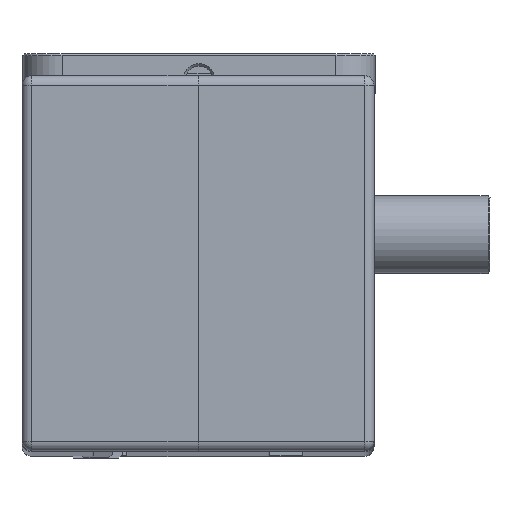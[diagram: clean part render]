
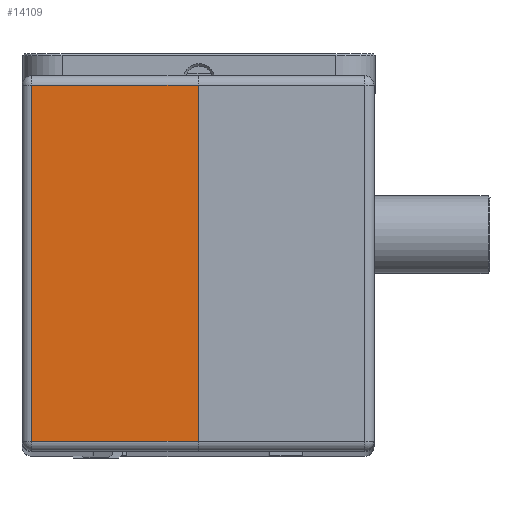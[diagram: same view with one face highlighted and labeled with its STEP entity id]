
A CAD part, top view. The second image highlights one B-rep face of the part: STEP entity #14109.
In plain terms, the highlighted planar face has unit normal (0, 0, 1) as drawn and (0, 1, 0) by its records, which use the part's own axes.
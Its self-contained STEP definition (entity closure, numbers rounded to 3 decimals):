
#1022 = EDGE_CURVE ( 'NONE', #2760, #4740, #15698, .T. ) ;
#2760 = VERTEX_POINT ( 'NONE', #64285 ) ;
#4693 = CARTESIAN_POINT ( 'NONE',  ( 65.17, 1228.8, 60.83 ) ) ;
#4740 = VERTEX_POINT ( 'NONE', #45859 ) ;
#5754 = CARTESIAN_POINT ( 'NONE',  ( 22.67, 1228.8, 154.33 ) ) ;
#6270 = CARTESIAN_POINT ( 'NONE',  ( 22.67, 1228.8, 154.33 ) ) ;
#6626 = VECTOR ( 'NONE', #44913, 1000. ) ;
#11185 = DIRECTION ( 'NONE',  ( 0., 1., 0. ) ) ;
#11317 = EDGE_LOOP ( 'NONE', ( #45422, #59219, #52828, #18469 ) ) ;
#12764 = LINE ( 'NONE', #61835, #6626 ) ;
#13326 = CARTESIAN_POINT ( 'NONE',  ( 22.67, 1228.8, 60.83 ) ) ;
#13959 = EDGE_CURVE ( 'NONE', #37593, #41789, #50101, .T. ) ;
#14109 = ADVANCED_FACE ( 'NONE', ( #29962 ), #51489, .T. ) ;
#15698 = LINE ( 'NONE', #4693, #44407 ) ;
#18469 = ORIENTED_EDGE ( 'NONE', *, *, #35922, .T. ) ;
#20297 = DIRECTION ( 'NONE',  ( 0., 0., -1. ) ) ;
#29594 = DIRECTION ( 'NONE',  ( 0., 0., 1. ) ) ;
#29962 = FACE_OUTER_BOUND ( 'NONE', #11317, .T. ) ;
#35922 = EDGE_CURVE ( 'NONE', #41789, #2760, #54683, .T. ) ;
#37593 = VERTEX_POINT ( 'NONE', #69394 ) ;
#38571 = EDGE_CURVE ( 'NONE', #4740, #37593, #12764, .T. ) ;
#41789 = VERTEX_POINT ( 'NONE', #5754 ) ;
#42992 = DIRECTION ( 'NONE',  ( 0., 0., 1. ) ) ;
#43345 = CARTESIAN_POINT ( 'NONE',  ( 22.67, 1228.8, 60.83 ) ) ;
#44407 = VECTOR ( 'NONE', #20297, 1000. ) ;
#44913 = DIRECTION ( 'NONE',  ( -1., 0., 0. ) ) ;
#45422 = ORIENTED_EDGE ( 'NONE', *, *, #1022, .T. ) ;
#45859 = CARTESIAN_POINT ( 'NONE',  ( 65.17, 1228.8, 63.33 ) ) ;
#46199 = VECTOR ( 'NONE', #29594, 1000. ) ;
#49339 = DIRECTION ( 'NONE',  ( 1., 0., 0. ) ) ;
#50101 = LINE ( 'NONE', #13326, #46199 ) ;
#51489 = PLANE ( 'NONE',  #55349 ) ;
#52828 = ORIENTED_EDGE ( 'NONE', *, *, #13959, .T. ) ;
#54111 = VECTOR ( 'NONE', #49339, 1000. ) ;
#54683 = LINE ( 'NONE', #6270, #54111 ) ;
#55349 = AXIS2_PLACEMENT_3D ( 'NONE', #43345, #11185, #42992 ) ;
#59219 = ORIENTED_EDGE ( 'NONE', *, *, #38571, .T. ) ;
#61835 = CARTESIAN_POINT ( 'NONE',  ( 22.67, 1228.8, 63.33 ) ) ;
#64285 = CARTESIAN_POINT ( 'NONE',  ( 65.17, 1228.8, 154.33 ) ) ;
#69394 = CARTESIAN_POINT ( 'NONE',  ( 22.67, 1228.8, 63.33 ) ) ;
